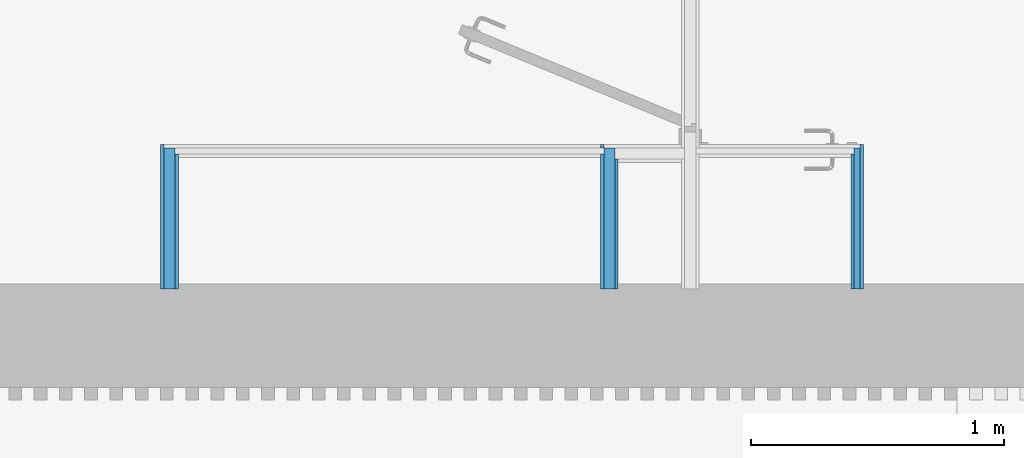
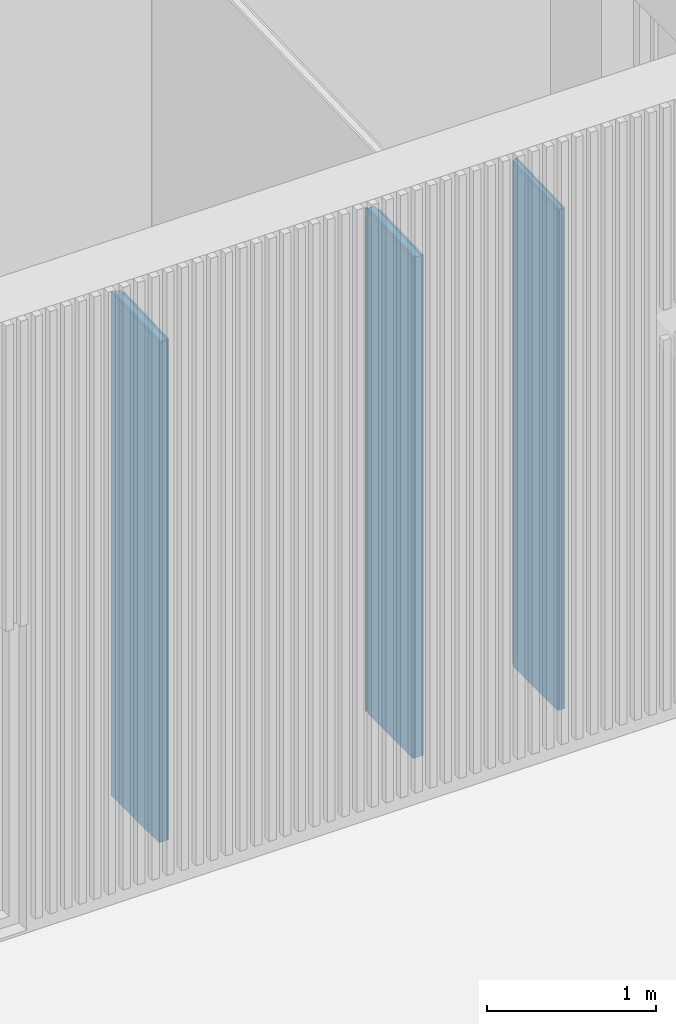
# One storey, part 25 of 34: 9 building element parts, 3 elements without a shape of their own.
"""IFC2X3 building model written with IfcOpenShell, lengths in metres."""

from ifc_helpers import new_model, entity, si_unit, converted_unit, derived_unit, money_unit, direction, frame, origin_with_axes, place, context, subcontext, project, spatial, polyline, outline, extrude, boolean, faceted_brep, material, type_object, element, aggregate, save


model = new_model("IFC2X3")

# Units and contexts
model_context = context("Model", 3, precision=1e-05, world=origin_with_axes(), true_north=direction((0.0, 1.0)))
body_context = subcontext(model_context, "Body", "Model", "MODEL_VIEW")
ifc_project = project(units=[si_unit("LENGTHUNIT", "METRE"), si_unit("AREAUNIT", "SQUARE_METRE"), si_unit("VOLUMEUNIT", "CUBIC_METRE"), converted_unit("PLANEANGLEUNIT", "DEGREE", entity("IfcPlaneAngleMeasure", 0.0174532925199), si_unit("PLANEANGLEUNIT", "RADIAN"), dimensions=[0, 0, 0, 0, 0, 0, 0]), money_unit("CHF"), converted_unit("TIMEUNIT", "Year", entity("IfcTimeMeasure", 31556926.0), si_unit("TIMEUNIT", "SECOND"), dimensions=[0, 0, 1, 0, 0, 0, 0]), si_unit("MASSUNIT", "GRAM", prefix="KILO"), si_unit("THERMODYNAMICTEMPERATUREUNIT", "DEGREE_CELSIUS"), si_unit("LUMINOUSINTENSITYUNIT", "LUMEN"), si_unit("ENERGYUNIT", "JOULE", prefix="MEGA"), derived_unit("THERMALCONDUCTANCEUNIT", [(si_unit("POWERUNIT", "WATT"), 1), (si_unit("LENGTHUNIT", "METRE"), -1), (si_unit("THERMODYNAMICTEMPERATUREUNIT", "KELVIN"), -1)]), derived_unit("SPECIFICHEATCAPACITYUNIT", [(si_unit("ENERGYUNIT", "JOULE"), 1), (si_unit("MASSUNIT", "GRAM", prefix="KILO"), -1), (si_unit("THERMODYNAMICTEMPERATUREUNIT", "KELVIN"), -1)]), derived_unit("MASSDENSITYUNIT", [(si_unit("MASSUNIT", "GRAM", prefix="KILO"), 1), (si_unit("VOLUMEUNIT", "CUBIC_METRE"), -1)])], contexts=[model_context])

# Site, building, storey
site_placement = place(None, origin_with_axes())
site = spatial("IfcSite", under=ifc_project, at=site_placement, Name="Site", CompositionType="ELEMENT")
building_placement = place(site_placement, origin_with_axes())
building = spatial("IfcBuilding", under=site, at=building_placement, Name="Bâtiment", CompositionType="ELEMENT")
storey_placement = place(building_placement, origin_with_axes())
storey = spatial("IfcBuildingStorey", under=building, at=storey_placement, Name="Rez-de-chaussée", CompositionType="ELEMENT", Elevation=0.0)

# Wall, building element parts
wall_type_1 = type_object("IfcWallType", Name="Cloison 72/48 70", PredefinedType="NOTDEFINED")
wall_1_placement = place(storey_placement, frame((28.4394697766, 6.46012566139, 0.0), z_axis=(0.0, 0.0, 1.0), x_axis=(0.0, 1.0, 0.0)))
wall_1 = element("IfcWall", 1, at=wall_1_placement, inside=storey, type_object=wall_type_1, Name="MUR_EXT-006")
ifc_material_1 = material(Name="Finition int - Plaque de plâtre")
building_element_part_1_placement = place(wall_1_placement, origin_with_axes())
building_element_part_1 = element("IfcBuildingElementPart", 2, at=building_element_part_1_placement, material=ifc_material_1, Name="Finition int - Plaque de plâtre", context=body_context, shape_type="CSG", body=[
    boolean("DIFFERENCE", boolean("DIFFERENCE", boolean("DIFFERENCE", extrude(outline(polyline([(-0.29, -0.013), (0.67, -0.013), (0.67, 0.0), (-0.29, 0.0), (-0.29, -0.013)])), origin_with_axes(), (0.0, 0.0, 1.0), 4.0), faceted_brep([(0.10000000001, -0.013, 3.62310439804), (0.657, -0.013, 3.64259939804), (0.67, -0.013, 3.64305439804), (0.67, -0.013, 4.0), (-0.29, -0.013, 4.0), (-0.29, -0.013, 0.0), (0.1, -0.013, 0.0), (0.67, 0.0, 3.64305439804), (0.10000000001, 0.0, 3.62310439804), (0.67, 0.0, 4.0), (-0.29, 0.0, 4.0), (-0.29, 0.0, 0.0), (0.1, 0.0, 0.0)], [[[0, 1, 2, 3, 4, 5, 6]], [[7, 2, 1, 0, 8]], [[2, 7, 9, 3]], [[10, 4, 3, 9]], [[10, 11, 5, 4]], [[12, 6, 5, 11]], [[6, 12, 8, 0]], [[8, 12, 11, 10, 9, 7]]])), faceted_brep([(0.10000000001, -0.057, 3.62310439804), (0.633, -0.057, 3.64175939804), (0.657, -0.057, 3.64259939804), (0.657, -0.057, 0.0), (0.67, -0.057, 0.0), (0.67, -0.057, 4.0), (-0.29, -0.057, 4.0), (-0.29, -0.057, 0.0), (0.1, -0.057, 0.0), (0.10000000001, -0.013, 3.62310439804), (0.657, -0.013, 3.64259939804), (0.657, -0.013, 0.0), (0.67, -0.013, 0.0), (0.67, -0.013, 4.0), (-0.29, -0.013, 4.0), (-0.29, -0.013, 0.0), (0.1, -0.013, 0.0)], [[[0, 1, 2, 3, 4, 5, 6, 7, 8]], [[2, 1, 0, 9, 10]], [[3, 2, 10, 11]], [[3, 11, 12, 4]], [[5, 4, 12, 13]], [[14, 6, 5, 13]], [[14, 15, 7, 6]], [[16, 8, 7, 15]], [[8, 16, 9, 0]], [[9, 16, 15, 14, 13, 12, 11, 10]]])), faceted_brep([(0.1, -0.07, 0.0), (0.10000000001, -0.07, 3.62310439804), (0.633, -0.07, 3.64175939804), (0.633, -0.07, 0.0), (0.67, -0.07, 0.0), (0.67, -0.07, 4.0), (-0.29, -0.07, 4.0), (-0.29, -0.07, 0.0), (0.1, -0.057, 0.0), (0.10000000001, -0.057, 3.62310439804), (0.633, -0.057, 3.64175939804), (0.633, -0.057, 0.0), (0.67, -0.057, 0.0), (0.67, -0.057, 4.0), (-0.29, -0.057, 4.0), (-0.29, -0.057, 0.0)], [[[0, 1, 2, 3, 4, 5, 6, 7]], [[1, 0, 8, 9]], [[2, 1, 9, 10]], [[3, 2, 10, 11]], [[3, 11, 12, 4]], [[5, 4, 12, 13]], [[14, 6, 5, 13]], [[14, 15, 7, 6]], [[8, 0, 7, 15]], [[9, 8, 15, 14, 13, 12, 11, 10]]])),
])
ifc_material_2 = material(Name="Isolation - Laine de verre")
building_element_part_2_placement = place(wall_1_placement, origin_with_axes())
building_element_part_2 = element("IfcBuildingElementPart", 3, at=building_element_part_2_placement, material=ifc_material_2, Name="Isolation - Laine de verre", context=body_context, shape_type="CSG", body=[
    boolean("DIFFERENCE", boolean("DIFFERENCE", boolean("DIFFERENCE", extrude(outline(polyline([(-0.29, -0.057), (0.67, -0.057), (0.67, -0.013), (-0.29, -0.013), (-0.29, -0.057)])), origin_with_axes(), (0.0, 0.0, 1.0), 4.0), faceted_brep([(0.10000000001, -0.013, 3.62310439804), (0.657, -0.013, 3.64259939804), (0.67, -0.013, 3.64305439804), (0.67, -0.013, 4.0), (-0.29, -0.013, 4.0), (-0.29, -0.013, 0.0), (0.1, -0.013, 0.0), (0.67, 0.0, 3.64305439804), (0.10000000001, 0.0, 3.62310439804), (0.67, 0.0, 4.0), (-0.29, 0.0, 4.0), (-0.29, 0.0, 0.0), (0.1, 0.0, 0.0)], [[[0, 1, 2, 3, 4, 5, 6]], [[7, 2, 1, 0, 8]], [[2, 7, 9, 3]], [[10, 4, 3, 9]], [[10, 11, 5, 4]], [[12, 6, 5, 11]], [[6, 12, 8, 0]], [[8, 12, 11, 10, 9, 7]]])), faceted_brep([(0.10000000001, -0.057, 3.62310439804), (0.633, -0.057, 3.64175939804), (0.657, -0.057, 3.64259939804), (0.657, -0.057, 0.0), (0.67, -0.057, 0.0), (0.67, -0.057, 4.0), (-0.29, -0.057, 4.0), (-0.29, -0.057, 0.0), (0.1, -0.057, 0.0), (0.10000000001, -0.013, 3.62310439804), (0.657, -0.013, 3.64259939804), (0.657, -0.013, 0.0), (0.67, -0.013, 0.0), (0.67, -0.013, 4.0), (-0.29, -0.013, 4.0), (-0.29, -0.013, 0.0), (0.1, -0.013, 0.0)], [[[0, 1, 2, 3, 4, 5, 6, 7, 8]], [[2, 1, 0, 9, 10]], [[3, 2, 10, 11]], [[3, 11, 12, 4]], [[5, 4, 12, 13]], [[14, 6, 5, 13]], [[14, 15, 7, 6]], [[16, 8, 7, 15]], [[8, 16, 9, 0]], [[9, 16, 15, 14, 13, 12, 11, 10]]])), faceted_brep([(0.1, -0.07, 0.0), (0.10000000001, -0.07, 3.62310439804), (0.633, -0.07, 3.64175939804), (0.633, -0.07, 0.0), (0.67, -0.07, 0.0), (0.67, -0.07, 4.0), (-0.29, -0.07, 4.0), (-0.29, -0.07, 0.0), (0.1, -0.057, 0.0), (0.10000000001, -0.057, 3.62310439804), (0.633, -0.057, 3.64175939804), (0.633, -0.057, 0.0), (0.67, -0.057, 0.0), (0.67, -0.057, 4.0), (-0.29, -0.057, 4.0), (-0.29, -0.057, 0.0)], [[[0, 1, 2, 3, 4, 5, 6, 7]], [[1, 0, 8, 9]], [[2, 1, 9, 10]], [[3, 2, 10, 11]], [[3, 11, 12, 4]], [[5, 4, 12, 13]], [[14, 6, 5, 13]], [[14, 15, 7, 6]], [[8, 0, 7, 15]], [[9, 8, 15, 14, 13, 12, 11, 10]]])),
])
building_element_part_3_placement = place(wall_1_placement, origin_with_axes())
building_element_part_3 = element("IfcBuildingElementPart", 4, at=building_element_part_3_placement, material=ifc_material_1, Name="Finition int - Plaque de plâtre", context=body_context, shape_type="CSG", body=[
    boolean("DIFFERENCE", boolean("DIFFERENCE", boolean("DIFFERENCE", extrude(outline(polyline([(-0.29, -0.07), (0.67, -0.07), (0.67, -0.057), (-0.29, -0.057), (-0.29, -0.07)])), origin_with_axes(), (0.0, 0.0, 1.0), 4.0), faceted_brep([(0.10000000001, -0.013, 3.62310439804), (0.657, -0.013, 3.64259939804), (0.67, -0.013, 3.64305439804), (0.67, -0.013, 4.0), (-0.29, -0.013, 4.0), (-0.29, -0.013, 0.0), (0.1, -0.013, 0.0), (0.67, 0.0, 3.64305439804), (0.10000000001, 0.0, 3.62310439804), (0.67, 0.0, 4.0), (-0.29, 0.0, 4.0), (-0.29, 0.0, 0.0), (0.1, 0.0, 0.0)], [[[0, 1, 2, 3, 4, 5, 6]], [[7, 2, 1, 0, 8]], [[2, 7, 9, 3]], [[10, 4, 3, 9]], [[10, 11, 5, 4]], [[12, 6, 5, 11]], [[6, 12, 8, 0]], [[8, 12, 11, 10, 9, 7]]])), faceted_brep([(0.10000000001, -0.057, 3.62310439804), (0.633, -0.057, 3.64175939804), (0.657, -0.057, 3.64259939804), (0.657, -0.057, 0.0), (0.67, -0.057, 0.0), (0.67, -0.057, 4.0), (-0.29, -0.057, 4.0), (-0.29, -0.057, 0.0), (0.1, -0.057, 0.0), (0.10000000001, -0.013, 3.62310439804), (0.657, -0.013, 3.64259939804), (0.657, -0.013, 0.0), (0.67, -0.013, 0.0), (0.67, -0.013, 4.0), (-0.29, -0.013, 4.0), (-0.29, -0.013, 0.0), (0.1, -0.013, 0.0)], [[[0, 1, 2, 3, 4, 5, 6, 7, 8]], [[2, 1, 0, 9, 10]], [[3, 2, 10, 11]], [[3, 11, 12, 4]], [[5, 4, 12, 13]], [[14, 6, 5, 13]], [[14, 15, 7, 6]], [[16, 8, 7, 15]], [[8, 16, 9, 0]], [[9, 16, 15, 14, 13, 12, 11, 10]]])), faceted_brep([(0.1, -0.07, 0.0), (0.10000000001, -0.07, 3.62310439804), (0.633, -0.07, 3.64175939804), (0.633, -0.07, 0.0), (0.67, -0.07, 0.0), (0.67, -0.07, 4.0), (-0.29, -0.07, 4.0), (-0.29, -0.07, 0.0), (0.1, -0.057, 0.0), (0.10000000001, -0.057, 3.62310439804), (0.633, -0.057, 3.64175939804), (0.633, -0.057, 0.0), (0.67, -0.057, 0.0), (0.67, -0.057, 4.0), (-0.29, -0.057, 4.0), (-0.29, -0.057, 0.0)], [[[0, 1, 2, 3, 4, 5, 6, 7]], [[1, 0, 8, 9]], [[2, 1, 9, 10]], [[3, 2, 10, 11]], [[3, 11, 12, 4]], [[5, 4, 12, 13]], [[14, 6, 5, 13]], [[14, 15, 7, 6]], [[8, 0, 7, 15]], [[9, 8, 15, 14, 13, 12, 11, 10]]])),
])
aggregate(wall_1, [building_element_part_1, building_element_part_2, building_element_part_3])

wall_2_placement = place(storey_placement, frame((30.1794697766, 6.46012566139, 0.0), z_axis=(0.0, 0.0, 1.0), x_axis=(0.0, 1.0, 0.0)))
wall_2 = element("IfcWall", 5, at=wall_2_placement, inside=storey, type_object=wall_type_1, Name="MUR_EXT-006")
building_element_part_4_placement = place(wall_2_placement, origin_with_axes())
building_element_part_4 = element("IfcBuildingElementPart", 6, at=building_element_part_4_placement, material=ifc_material_1, Name="Finition int - Plaque de plâtre", context=body_context, shape_type="CSG", body=[
    boolean("DIFFERENCE", boolean("DIFFERENCE", boolean("DIFFERENCE", extrude(outline(polyline([(-0.29, -0.013), (0.67, -0.013), (0.67, 0.0), (-0.29, 0.0), (-0.29, -0.013)])), origin_with_axes(), (0.0, 0.0, 1.0), 4.0), faceted_brep([(0.1, -0.013, 0.0), (0.10000000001, -0.013, 3.62310439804), (0.633, -0.013, 3.64175939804), (0.633, -0.013, 0.0), (0.657, -0.013, 0.0), (0.657, -0.013, 3.64259939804), (0.67, -0.013, 3.64305439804), (0.67, -0.013, 4.0), (-0.29, -0.013, 4.0), (-0.29, -0.013, 0.0), (0.1, 0.0, 0.0), (0.10000000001, 0.0, 3.62310439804), (0.633, 0.0, 3.64175939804), (0.633, 0.0, 0.0), (0.657, 0.0, 0.0), (0.657, 0.0, 3.64259939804), (0.67, 0.0, 3.64305439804), (0.67, 0.0, 4.0), (-0.29, 0.0, 4.0), (-0.29, 0.0, 0.0)], [[[0, 1, 2, 3, 4, 5, 6, 7, 8, 9]], [[0, 10, 11, 1]], [[2, 1, 11, 12]], [[3, 2, 12, 13]], [[3, 13, 14, 4]], [[15, 5, 4, 14]], [[15, 16, 6, 5]], [[7, 6, 16, 17]], [[17, 18, 8, 7]], [[8, 18, 19, 9]], [[10, 0, 9, 19]], [[11, 10, 19, 18, 17, 16, 15, 14, 13, 12]]])), faceted_brep([(0.10000000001, -0.057, 3.62310439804), (0.613, -0.057, 3.64105939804), (0.657, -0.057, 3.64259939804), (0.657, -0.057, 0.0), (0.67, -0.057, 0.0), (0.67, -0.057, 4.0), (-0.29, -0.057, 4.0), (-0.29, -0.057, 0.0), (0.1, -0.057, 0.0), (0.10000000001, -0.013, 3.62310439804), (0.633, -0.013, 3.64175939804), (0.657, -0.013, 3.64259939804), (0.657, -0.013, 0.0), (0.67, -0.013, 0.0), (0.67, -0.013, 4.0), (-0.29, -0.013, 4.0), (-0.29, -0.013, 0.0), (0.1, -0.013, 0.0)], [[[0, 1, 2, 3, 4, 5, 6, 7, 8]], [[2, 1, 0, 9, 10, 11]], [[3, 2, 11, 12]], [[3, 12, 13, 4]], [[14, 5, 4, 13]], [[14, 15, 6, 5]], [[6, 15, 16, 7]], [[17, 8, 7, 16]], [[8, 17, 9, 0]], [[9, 17, 16, 15, 14, 13, 12, 11, 10]]])), faceted_brep([(0.1, -0.07, 0.0), (0.10000000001, -0.07, 3.62310439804), (0.613, -0.07, 3.64105939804), (0.613, -0.07, 0.0), (0.67, -0.07, 0.0), (0.67, -0.07, 4.0), (-0.29, -0.07, 4.0), (-0.29, -0.07, 0.0), (0.1, -0.057, 0.0), (0.10000000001, -0.057, 3.62310439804), (0.613, -0.057, 3.64105939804), (0.613, -0.057, 0.0), (0.67, -0.057, 0.0), (0.67, -0.057, 4.0), (-0.29, -0.057, 4.0), (-0.29, -0.057, 0.0)], [[[0, 1, 2, 3, 4, 5, 6, 7]], [[1, 0, 8, 9]], [[2, 1, 9, 10]], [[3, 2, 10, 11]], [[3, 11, 12, 4]], [[5, 4, 12, 13]], [[14, 6, 5, 13]], [[14, 15, 7, 6]], [[8, 0, 7, 15]], [[9, 8, 15, 14, 13, 12, 11, 10]]])),
])
building_element_part_5_placement = place(wall_2_placement, origin_with_axes())
building_element_part_5 = element("IfcBuildingElementPart", 7, at=building_element_part_5_placement, material=ifc_material_2, Name="Isolation - Laine de verre", context=body_context, shape_type="CSG", body=[
    boolean("DIFFERENCE", boolean("DIFFERENCE", boolean("DIFFERENCE", extrude(outline(polyline([(-0.29, -0.057), (0.67, -0.057), (0.67, -0.013), (-0.29, -0.013), (-0.29, -0.057)])), origin_with_axes(), (0.0, 0.0, 1.0), 4.0), faceted_brep([(0.1, -0.013, 0.0), (0.10000000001, -0.013, 3.62310439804), (0.633, -0.013, 3.64175939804), (0.633, -0.013, 0.0), (0.657, -0.013, 0.0), (0.657, -0.013, 3.64259939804), (0.67, -0.013, 3.64305439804), (0.67, -0.013, 4.0), (-0.29, -0.013, 4.0), (-0.29, -0.013, 0.0), (0.1, 0.0, 0.0), (0.10000000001, 0.0, 3.62310439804), (0.633, 0.0, 3.64175939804), (0.633, 0.0, 0.0), (0.657, 0.0, 0.0), (0.657, 0.0, 3.64259939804), (0.67, 0.0, 3.64305439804), (0.67, 0.0, 4.0), (-0.29, 0.0, 4.0), (-0.29, 0.0, 0.0)], [[[0, 1, 2, 3, 4, 5, 6, 7, 8, 9]], [[0, 10, 11, 1]], [[2, 1, 11, 12]], [[3, 2, 12, 13]], [[3, 13, 14, 4]], [[15, 5, 4, 14]], [[15, 16, 6, 5]], [[7, 6, 16, 17]], [[17, 18, 8, 7]], [[8, 18, 19, 9]], [[10, 0, 9, 19]], [[11, 10, 19, 18, 17, 16, 15, 14, 13, 12]]])), faceted_brep([(0.10000000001, -0.057, 3.62310439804), (0.613, -0.057, 3.64105939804), (0.657, -0.057, 3.64259939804), (0.657, -0.057, 0.0), (0.67, -0.057, 0.0), (0.67, -0.057, 4.0), (-0.29, -0.057, 4.0), (-0.29, -0.057, 0.0), (0.1, -0.057, 0.0), (0.10000000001, -0.013, 3.62310439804), (0.633, -0.013, 3.64175939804), (0.657, -0.013, 3.64259939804), (0.657, -0.013, 0.0), (0.67, -0.013, 0.0), (0.67, -0.013, 4.0), (-0.29, -0.013, 4.0), (-0.29, -0.013, 0.0), (0.1, -0.013, 0.0)], [[[0, 1, 2, 3, 4, 5, 6, 7, 8]], [[2, 1, 0, 9, 10, 11]], [[3, 2, 11, 12]], [[3, 12, 13, 4]], [[14, 5, 4, 13]], [[14, 15, 6, 5]], [[6, 15, 16, 7]], [[17, 8, 7, 16]], [[8, 17, 9, 0]], [[9, 17, 16, 15, 14, 13, 12, 11, 10]]])), faceted_brep([(0.1, -0.07, 0.0), (0.10000000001, -0.07, 3.62310439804), (0.613, -0.07, 3.64105939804), (0.613, -0.07, 0.0), (0.67, -0.07, 0.0), (0.67, -0.07, 4.0), (-0.29, -0.07, 4.0), (-0.29, -0.07, 0.0), (0.1, -0.057, 0.0), (0.10000000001, -0.057, 3.62310439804), (0.613, -0.057, 3.64105939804), (0.613, -0.057, 0.0), (0.67, -0.057, 0.0), (0.67, -0.057, 4.0), (-0.29, -0.057, 4.0), (-0.29, -0.057, 0.0)], [[[0, 1, 2, 3, 4, 5, 6, 7]], [[1, 0, 8, 9]], [[2, 1, 9, 10]], [[3, 2, 10, 11]], [[3, 11, 12, 4]], [[5, 4, 12, 13]], [[14, 6, 5, 13]], [[14, 15, 7, 6]], [[8, 0, 7, 15]], [[9, 8, 15, 14, 13, 12, 11, 10]]])),
])
building_element_part_6_placement = place(wall_2_placement, origin_with_axes())
building_element_part_6 = element("IfcBuildingElementPart", 8, at=building_element_part_6_placement, material=ifc_material_1, Name="Finition int - Plaque de plâtre", context=body_context, shape_type="CSG", body=[
    boolean("DIFFERENCE", boolean("DIFFERENCE", boolean("DIFFERENCE", extrude(outline(polyline([(-0.29, -0.07), (0.67, -0.07), (0.67, -0.057), (-0.29, -0.057), (-0.29, -0.07)])), origin_with_axes(), (0.0, 0.0, 1.0), 4.0), faceted_brep([(0.1, -0.013, 0.0), (0.10000000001, -0.013, 3.62310439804), (0.633, -0.013, 3.64175939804), (0.633, -0.013, 0.0), (0.657, -0.013, 0.0), (0.657, -0.013, 3.64259939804), (0.67, -0.013, 3.64305439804), (0.67, -0.013, 4.0), (-0.29, -0.013, 4.0), (-0.29, -0.013, 0.0), (0.1, 0.0, 0.0), (0.10000000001, 0.0, 3.62310439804), (0.633, 0.0, 3.64175939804), (0.633, 0.0, 0.0), (0.657, 0.0, 0.0), (0.657, 0.0, 3.64259939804), (0.67, 0.0, 3.64305439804), (0.67, 0.0, 4.0), (-0.29, 0.0, 4.0), (-0.29, 0.0, 0.0)], [[[0, 1, 2, 3, 4, 5, 6, 7, 8, 9]], [[0, 10, 11, 1]], [[2, 1, 11, 12]], [[3, 2, 12, 13]], [[3, 13, 14, 4]], [[15, 5, 4, 14]], [[15, 16, 6, 5]], [[7, 6, 16, 17]], [[17, 18, 8, 7]], [[8, 18, 19, 9]], [[10, 0, 9, 19]], [[11, 10, 19, 18, 17, 16, 15, 14, 13, 12]]])), faceted_brep([(0.10000000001, -0.057, 3.62310439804), (0.613, -0.057, 3.64105939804), (0.657, -0.057, 3.64259939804), (0.657, -0.057, 0.0), (0.67, -0.057, 0.0), (0.67, -0.057, 4.0), (-0.29, -0.057, 4.0), (-0.29, -0.057, 0.0), (0.1, -0.057, 0.0), (0.10000000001, -0.013, 3.62310439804), (0.633, -0.013, 3.64175939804), (0.657, -0.013, 3.64259939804), (0.657, -0.013, 0.0), (0.67, -0.013, 0.0), (0.67, -0.013, 4.0), (-0.29, -0.013, 4.0), (-0.29, -0.013, 0.0), (0.1, -0.013, 0.0)], [[[0, 1, 2, 3, 4, 5, 6, 7, 8]], [[2, 1, 0, 9, 10, 11]], [[3, 2, 11, 12]], [[3, 12, 13, 4]], [[14, 5, 4, 13]], [[14, 15, 6, 5]], [[6, 15, 16, 7]], [[17, 8, 7, 16]], [[8, 17, 9, 0]], [[9, 17, 16, 15, 14, 13, 12, 11, 10]]])), faceted_brep([(0.1, -0.07, 0.0), (0.10000000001, -0.07, 3.62310439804), (0.613, -0.07, 3.64105939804), (0.613, -0.07, 0.0), (0.67, -0.07, 0.0), (0.67, -0.07, 4.0), (-0.29, -0.07, 4.0), (-0.29, -0.07, 0.0), (0.1, -0.057, 0.0), (0.10000000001, -0.057, 3.62310439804), (0.613, -0.057, 3.64105939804), (0.613, -0.057, 0.0), (0.67, -0.057, 0.0), (0.67, -0.057, 4.0), (-0.29, -0.057, 4.0), (-0.29, -0.057, 0.0)], [[[0, 1, 2, 3, 4, 5, 6, 7]], [[1, 0, 8, 9]], [[2, 1, 9, 10]], [[3, 2, 10, 11]], [[3, 11, 12, 4]], [[5, 4, 12, 13]], [[14, 6, 5, 13]], [[14, 15, 7, 6]], [[8, 0, 7, 15]], [[9, 8, 15, 14, 13, 12, 11, 10]]])),
])
aggregate(wall_2, [building_element_part_4, building_element_part_5, building_element_part_6])

wall_type_2 = type_object("IfcWallType", Name="Cloison 50 50", PredefinedType="NOTDEFINED")
wall_3_placement = place(storey_placement, frame((31.2194697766, 7.13012566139, 0.0), z_axis=(0.0, 0.0, 1.0), x_axis=(0.0, -1.0, 0.0)))
wall_3 = element("IfcWall", 9, at=wall_3_placement, inside=storey, type_object=wall_type_2, Name="MUR_EXT-007")
building_element_part_7_placement = place(wall_3_placement, origin_with_axes())
building_element_part_7 = element("IfcBuildingElementPart", 10, at=building_element_part_7_placement, material=ifc_material_1, Name="Finition int - Plaque de plâtre", context=body_context, shape_type="CSG", body=[
    boolean("DIFFERENCE", boolean("DIFFERENCE", boolean("DIFFERENCE", extrude(outline(polyline([(0.0, -0.013), (0.96, -0.013), (0.96, 0.0), (0.0, 0.0), (0.0, -0.013)])), origin_with_axes(), (0.0, 0.0, 1.0), 4.0), faceted_brep([(0.57, 0.0, 0.0), (0.56999999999, 0.0, 3.62310439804), (0.0, 0.0, 3.64305439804), (0.0, 0.0, 4.0), (0.96, 0.0, 4.0), (0.96, 0.0, 0.0), (0.57, -0.013, 0.0), (0.56999999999, -0.013, 3.62310439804), (0.0, -0.013, 3.64305439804), (0.013, -0.013, 3.64259939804), (0.0, -0.013, 4.0), (0.96, -0.013, 4.0), (0.96, -0.013, 0.0)], [[[0, 1, 2, 3, 4, 5]], [[1, 0, 6, 7]], [[8, 2, 1, 7, 9]], [[2, 8, 10, 3]], [[3, 10, 11, 4]], [[11, 12, 5, 4]], [[6, 0, 5, 12]], [[7, 6, 12, 11, 10, 8, 9]]])), faceted_brep([(0.57, -0.013, 0.0), (0.56999999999, -0.013, 3.62310439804), (0.013, -0.013, 3.64259939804), (0.013, -0.013, 0.0), (0.0, -0.013, 0.0), (0.0, -0.013, 4.0), (0.96, -0.013, 4.0), (0.96, -0.013, 0.0), (0.57, -0.037, 0.0), (0.56999999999, -0.037, 3.62310439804), (0.037, -0.037, 3.64175939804), (0.013, -0.037, 3.64259939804), (0.013, -0.037, 0.0), (0.0, -0.037, 0.0), (0.0, -0.037, 4.0), (0.96, -0.037, 4.0), (0.96, -0.037, 0.0)], [[[0, 1, 2, 3, 4, 5, 6, 7]], [[0, 8, 9, 1]], [[2, 1, 9, 10, 11]], [[3, 2, 11, 12]], [[3, 12, 13, 4]], [[5, 4, 13, 14]], [[5, 14, 15, 6]], [[15, 16, 7, 6]], [[8, 0, 7, 16]], [[9, 8, 16, 15, 14, 13, 12, 11, 10]]])), faceted_brep([(0.57, -0.037, 0.0), (0.56999999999, -0.037, 3.62310439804), (0.037, -0.037, 3.64175939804), (0.037, -0.037, 0.0), (0.0, -0.037, 0.0), (0.0, -0.037, 4.0), (0.96, -0.037, 4.0), (0.96, -0.037, 0.0), (0.57, -0.05, 0.0), (0.56999999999, -0.05, 3.62310439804), (0.037, -0.05, 3.64175939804), (0.037, -0.05, 0.0), (0.0, -0.05, 0.0), (0.0, -0.05, 4.0), (0.96, -0.05, 4.0), (0.96, -0.05, 0.0)], [[[0, 1, 2, 3, 4, 5, 6, 7]], [[0, 8, 9, 1]], [[2, 1, 9, 10]], [[3, 2, 10, 11]], [[3, 11, 12, 4]], [[5, 4, 12, 13]], [[5, 13, 14, 6]], [[14, 15, 7, 6]], [[8, 0, 7, 15]], [[9, 8, 15, 14, 13, 12, 11, 10]]])),
])
building_element_part_8_placement = place(wall_3_placement, origin_with_axes())
building_element_part_8 = element("IfcBuildingElementPart", 11, at=building_element_part_8_placement, material=ifc_material_2, Name="Isolation - Laine de verre", context=body_context, shape_type="CSG", body=[
    boolean("DIFFERENCE", boolean("DIFFERENCE", boolean("DIFFERENCE", extrude(outline(polyline([(0.0, -0.037), (0.96, -0.037), (0.96, -0.013), (0.0, -0.013), (0.0, -0.037)])), origin_with_axes(), (0.0, 0.0, 1.0), 4.0), faceted_brep([(0.57, 0.0, 0.0), (0.56999999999, 0.0, 3.62310439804), (0.0, 0.0, 3.64305439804), (0.0, 0.0, 4.0), (0.96, 0.0, 4.0), (0.96, 0.0, 0.0), (0.57, -0.013, 0.0), (0.56999999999, -0.013, 3.62310439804), (0.0, -0.013, 3.64305439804), (0.013, -0.013, 3.64259939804), (0.0, -0.013, 4.0), (0.96, -0.013, 4.0), (0.96, -0.013, 0.0)], [[[0, 1, 2, 3, 4, 5]], [[1, 0, 6, 7]], [[8, 2, 1, 7, 9]], [[2, 8, 10, 3]], [[3, 10, 11, 4]], [[11, 12, 5, 4]], [[6, 0, 5, 12]], [[7, 6, 12, 11, 10, 8, 9]]])), faceted_brep([(0.57, -0.013, 0.0), (0.56999999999, -0.013, 3.62310439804), (0.013, -0.013, 3.64259939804), (0.013, -0.013, 0.0), (0.0, -0.013, 0.0), (0.0, -0.013, 4.0), (0.96, -0.013, 4.0), (0.96, -0.013, 0.0), (0.57, -0.037, 0.0), (0.56999999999, -0.037, 3.62310439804), (0.037, -0.037, 3.64175939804), (0.013, -0.037, 3.64259939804), (0.013, -0.037, 0.0), (0.0, -0.037, 0.0), (0.0, -0.037, 4.0), (0.96, -0.037, 4.0), (0.96, -0.037, 0.0)], [[[0, 1, 2, 3, 4, 5, 6, 7]], [[0, 8, 9, 1]], [[2, 1, 9, 10, 11]], [[3, 2, 11, 12]], [[3, 12, 13, 4]], [[5, 4, 13, 14]], [[5, 14, 15, 6]], [[15, 16, 7, 6]], [[8, 0, 7, 16]], [[9, 8, 16, 15, 14, 13, 12, 11, 10]]])), faceted_brep([(0.57, -0.037, 0.0), (0.56999999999, -0.037, 3.62310439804), (0.037, -0.037, 3.64175939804), (0.037, -0.037, 0.0), (0.0, -0.037, 0.0), (0.0, -0.037, 4.0), (0.96, -0.037, 4.0), (0.96, -0.037, 0.0), (0.57, -0.05, 0.0), (0.56999999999, -0.05, 3.62310439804), (0.037, -0.05, 3.64175939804), (0.037, -0.05, 0.0), (0.0, -0.05, 0.0), (0.0, -0.05, 4.0), (0.96, -0.05, 4.0), (0.96, -0.05, 0.0)], [[[0, 1, 2, 3, 4, 5, 6, 7]], [[0, 8, 9, 1]], [[2, 1, 9, 10]], [[3, 2, 10, 11]], [[3, 11, 12, 4]], [[5, 4, 12, 13]], [[5, 13, 14, 6]], [[14, 15, 7, 6]], [[8, 0, 7, 15]], [[9, 8, 15, 14, 13, 12, 11, 10]]])),
])
building_element_part_9_placement = place(wall_3_placement, origin_with_axes())
building_element_part_9 = element("IfcBuildingElementPart", 12, at=building_element_part_9_placement, material=ifc_material_1, Name="Finition int - Plaque de plâtre", context=body_context, shape_type="CSG", body=[
    boolean("DIFFERENCE", boolean("DIFFERENCE", boolean("DIFFERENCE", extrude(outline(polyline([(0.0, -0.05), (0.96, -0.05), (0.96, -0.037), (0.0, -0.037), (0.0, -0.05)])), origin_with_axes(), (0.0, 0.0, 1.0), 4.0), faceted_brep([(0.57, 0.0, 0.0), (0.56999999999, 0.0, 3.62310439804), (0.0, 0.0, 3.64305439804), (0.0, 0.0, 4.0), (0.96, 0.0, 4.0), (0.96, 0.0, 0.0), (0.57, -0.013, 0.0), (0.56999999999, -0.013, 3.62310439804), (0.0, -0.013, 3.64305439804), (0.013, -0.013, 3.64259939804), (0.0, -0.013, 4.0), (0.96, -0.013, 4.0), (0.96, -0.013, 0.0)], [[[0, 1, 2, 3, 4, 5]], [[1, 0, 6, 7]], [[8, 2, 1, 7, 9]], [[2, 8, 10, 3]], [[3, 10, 11, 4]], [[11, 12, 5, 4]], [[6, 0, 5, 12]], [[7, 6, 12, 11, 10, 8, 9]]])), faceted_brep([(0.57, -0.013, 0.0), (0.56999999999, -0.013, 3.62310439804), (0.013, -0.013, 3.64259939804), (0.013, -0.013, 0.0), (0.0, -0.013, 0.0), (0.0, -0.013, 4.0), (0.96, -0.013, 4.0), (0.96, -0.013, 0.0), (0.57, -0.037, 0.0), (0.56999999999, -0.037, 3.62310439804), (0.037, -0.037, 3.64175939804), (0.013, -0.037, 3.64259939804), (0.013, -0.037, 0.0), (0.0, -0.037, 0.0), (0.0, -0.037, 4.0), (0.96, -0.037, 4.0), (0.96, -0.037, 0.0)], [[[0, 1, 2, 3, 4, 5, 6, 7]], [[0, 8, 9, 1]], [[2, 1, 9, 10, 11]], [[3, 2, 11, 12]], [[3, 12, 13, 4]], [[5, 4, 13, 14]], [[5, 14, 15, 6]], [[15, 16, 7, 6]], [[8, 0, 7, 16]], [[9, 8, 16, 15, 14, 13, 12, 11, 10]]])), faceted_brep([(0.57, -0.037, 0.0), (0.56999999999, -0.037, 3.62310439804), (0.037, -0.037, 3.64175939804), (0.037, -0.037, 0.0), (0.0, -0.037, 0.0), (0.0, -0.037, 4.0), (0.96, -0.037, 4.0), (0.96, -0.037, 0.0), (0.57, -0.05, 0.0), (0.56999999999, -0.05, 3.62310439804), (0.037, -0.05, 3.64175939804), (0.037, -0.05, 0.0), (0.0, -0.05, 0.0), (0.0, -0.05, 4.0), (0.96, -0.05, 4.0), (0.96, -0.05, 0.0)], [[[0, 1, 2, 3, 4, 5, 6, 7]], [[0, 8, 9, 1]], [[2, 1, 9, 10]], [[3, 2, 10, 11]], [[3, 11, 12, 4]], [[5, 4, 12, 13]], [[5, 13, 14, 6]], [[14, 15, 7, 6]], [[8, 0, 7, 15]], [[9, 8, 15, 14, 13, 12, 11, 10]]])),
])
aggregate(wall_3, [building_element_part_7, building_element_part_8, building_element_part_9])

save(model, "model.ifc")
